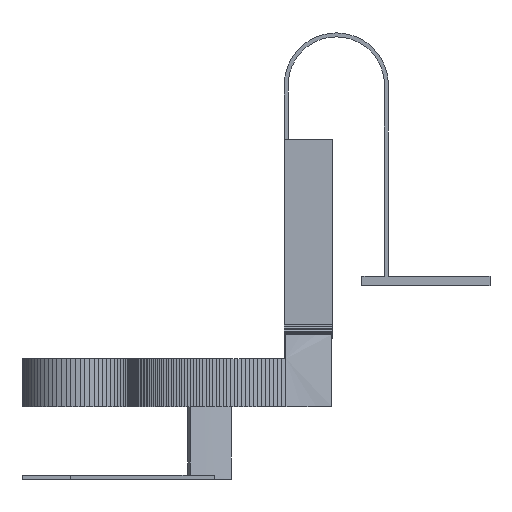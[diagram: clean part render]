
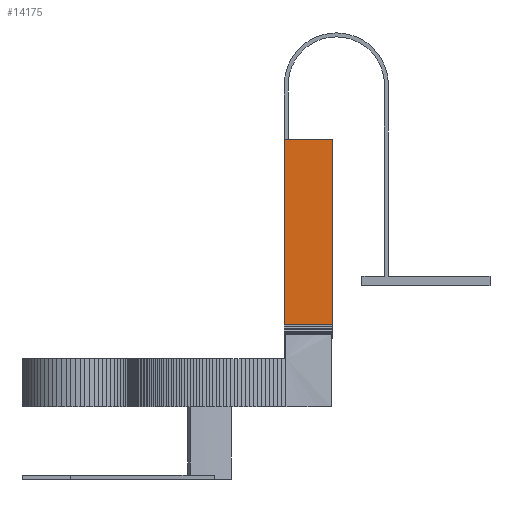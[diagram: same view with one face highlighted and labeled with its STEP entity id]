
A CAD part, left-side view. The second image highlights one B-rep face of the part: STEP entity #14175.
In plain terms, the highlighted planar face has unit normal (-1, 0, 0).
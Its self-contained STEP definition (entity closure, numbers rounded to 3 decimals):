
#12252 = PLANE('',#12253);
#12253 = AXIS2_PLACEMENT_3D('',#12254,#12255,#12256);
#12254 = CARTESIAN_POINT('',(24.5,7.,-41.85));
#12255 = DIRECTION('',(0.,-1.,0.));
#12256 = DIRECTION('',(-1.,0.,0.));
#12836 = VERTEX_POINT('',#12837);
#12837 = CARTESIAN_POINT('',(25.1,7.,-29.4));
#12851 = PLANE('',#12852);
#12852 = AXIS2_PLACEMENT_3D('',#12853,#12854,#12855);
#12853 = CARTESIAN_POINT('',(25.1,4.,-29.4));
#12854 = DIRECTION('',(0.,0.,1.));
#12855 = DIRECTION('',(1.,0.,-0.));
#12863 = EDGE_CURVE('',#12864,#12836,#12866,.T.);
#12864 = VERTEX_POINT('',#12865);
#12865 = CARTESIAN_POINT('',(25.1,7.,-40.995));
#12866 = SURFACE_CURVE('',#12867,(#12871,#12878),.PCURVE_S1.);
#12867 = LINE('',#12868,#12869);
#12868 = CARTESIAN_POINT('',(25.1,7.,-40.995));
#12869 = VECTOR('',#12870,1.);
#12870 = DIRECTION('',(0.,0.,1.));
#12871 = PCURVE('',#12252,#12872);
#12872 = DEFINITIONAL_REPRESENTATION('',(#12873),#12877);
#12873 = LINE('',#12874,#12875);
#12874 = CARTESIAN_POINT('',(-0.6,-0.855));
#12875 = VECTOR('',#12876,1.);
#12876 = DIRECTION('',(0.,-1.));
#12877 = ( GEOMETRIC_REPRESENTATION_CONTEXT(2) 
PARAMETRIC_REPRESENTATION_CONTEXT() REPRESENTATION_CONTEXT('2D SPACE',''
  ) );
#12878 = PCURVE('',#12879,#12884);
#12879 = PLANE('',#12880);
#12880 = AXIS2_PLACEMENT_3D('',#12881,#12882,#12883);
#12881 = CARTESIAN_POINT('',(25.1,4.,-41.05));
#12882 = DIRECTION('',(1.,0.,-0.));
#12883 = DIRECTION('',(0.,0.,1.));
#12884 = DEFINITIONAL_REPRESENTATION('',(#12885),#12889);
#12885 = LINE('',#12886,#12887);
#12886 = CARTESIAN_POINT('',(0.055,-3.));
#12887 = VECTOR('',#12888,1.);
#12888 = DIRECTION('',(1.,0.));
#12889 = ( GEOMETRIC_REPRESENTATION_CONTEXT(2) 
PARAMETRIC_REPRESENTATION_CONTEXT() REPRESENTATION_CONTEXT('2D SPACE',''
  ) );
#12907 = PLANE('',#12908);
#12908 = AXIS2_PLACEMENT_3D('',#12909,#12910,#12911);
#12909 = CARTESIAN_POINT('',(25.091,4.,-41.104));
#12910 = DIRECTION('',(0.997,0.,-0.083));
#12911 = DIRECTION('',(0.083,0.,0.997));
#13186 = PLANE('',#13187);
#13187 = AXIS2_PLACEMENT_3D('',#13188,#13189,#13190);
#13188 = CARTESIAN_POINT('',(16.234,4.,-41.85));
#13189 = DIRECTION('',(0.,1.,0.));
#13190 = DIRECTION('',(1.,0.,0.));
#13480 = VERTEX_POINT('',#13481);
#13481 = CARTESIAN_POINT('',(25.1,4.,-40.995));
#13502 = EDGE_CURVE('',#13503,#13480,#13505,.T.);
#13503 = VERTEX_POINT('',#13504);
#13504 = CARTESIAN_POINT('',(25.1,4.,-29.4));
#13505 = SURFACE_CURVE('',#13506,(#13510,#13517),.PCURVE_S1.);
#13506 = LINE('',#13507,#13508);
#13507 = CARTESIAN_POINT('',(25.1,4.,-29.4));
#13508 = VECTOR('',#13509,1.);
#13509 = DIRECTION('',(0.,0.,-1.));
#13510 = PCURVE('',#13186,#13511);
#13511 = DEFINITIONAL_REPRESENTATION('',(#13512),#13516);
#13512 = LINE('',#13513,#13514);
#13513 = CARTESIAN_POINT('',(8.866,-12.45));
#13514 = VECTOR('',#13515,1.);
#13515 = DIRECTION('',(0.,1.));
#13516 = ( GEOMETRIC_REPRESENTATION_CONTEXT(2) 
PARAMETRIC_REPRESENTATION_CONTEXT() REPRESENTATION_CONTEXT('2D SPACE',''
  ) );
#13517 = PCURVE('',#12879,#13518);
#13518 = DEFINITIONAL_REPRESENTATION('',(#13519),#13523);
#13519 = LINE('',#13520,#13521);
#13520 = CARTESIAN_POINT('',(11.65,0.));
#13521 = VECTOR('',#13522,1.);
#13522 = DIRECTION('',(-1.,0.));
#13523 = ( GEOMETRIC_REPRESENTATION_CONTEXT(2) 
PARAMETRIC_REPRESENTATION_CONTEXT() REPRESENTATION_CONTEXT('2D SPACE',''
  ) );
#14156 = EDGE_CURVE('',#12864,#13480,#14157,.T.);
#14157 = SURFACE_CURVE('',#14158,(#14162,#14168),.PCURVE_S1.);
#14158 = LINE('',#14159,#14160);
#14159 = CARTESIAN_POINT('',(25.1,4.,-40.995));
#14160 = VECTOR('',#14161,1.);
#14161 = DIRECTION('',(0.,-1.,0.));
#14162 = PCURVE('',#12907,#14163);
#14163 = DEFINITIONAL_REPRESENTATION('',(#14164),#14167);
#14164 = B_SPLINE_CURVE_WITH_KNOTS('',1,(#14165,#14166),.UNSPECIFIED.,
  .F.,.F.,(2,2),(-3.,0.),.PIECEWISE_BEZIER_KNOTS.);
#14165 = CARTESIAN_POINT('',(0.11,-3.));
#14166 = CARTESIAN_POINT('',(0.11,0.));
#14167 = ( GEOMETRIC_REPRESENTATION_CONTEXT(2) 
PARAMETRIC_REPRESENTATION_CONTEXT() REPRESENTATION_CONTEXT('2D SPACE',''
  ) );
#14168 = PCURVE('',#12879,#14169);
#14169 = DEFINITIONAL_REPRESENTATION('',(#14170),#14174);
#14170 = LINE('',#14171,#14172);
#14171 = CARTESIAN_POINT('',(0.055,0.));
#14172 = VECTOR('',#14173,1.);
#14173 = DIRECTION('',(0.,1.));
#14174 = ( GEOMETRIC_REPRESENTATION_CONTEXT(2) 
PARAMETRIC_REPRESENTATION_CONTEXT() REPRESENTATION_CONTEXT('2D SPACE',''
  ) );
#14175 = ADVANCED_FACE('',(#14176),#12879,.F.);
#14176 = FACE_BOUND('',#14177,.F.);
#14177 = EDGE_LOOP('',(#14178,#14179,#14180,#14201));
#14178 = ORIENTED_EDGE('',*,*,#14156,.F.);
#14179 = ORIENTED_EDGE('',*,*,#12863,.T.);
#14180 = ORIENTED_EDGE('',*,*,#14181,.F.);
#14181 = EDGE_CURVE('',#13503,#12836,#14182,.T.);
#14182 = SURFACE_CURVE('',#14183,(#14187,#14194),.PCURVE_S1.);
#14183 = LINE('',#14184,#14185);
#14184 = CARTESIAN_POINT('',(25.1,4.,-29.4));
#14185 = VECTOR('',#14186,1.);
#14186 = DIRECTION('',(-0.,1.,0.));
#14187 = PCURVE('',#12879,#14188);
#14188 = DEFINITIONAL_REPRESENTATION('',(#14189),#14193);
#14189 = LINE('',#14190,#14191);
#14190 = CARTESIAN_POINT('',(11.65,0.));
#14191 = VECTOR('',#14192,1.);
#14192 = DIRECTION('',(0.,-1.));
#14193 = ( GEOMETRIC_REPRESENTATION_CONTEXT(2) 
PARAMETRIC_REPRESENTATION_CONTEXT() REPRESENTATION_CONTEXT('2D SPACE',''
  ) );
#14194 = PCURVE('',#12851,#14195);
#14195 = DEFINITIONAL_REPRESENTATION('',(#14196),#14200);
#14196 = LINE('',#14197,#14198);
#14197 = CARTESIAN_POINT('',(0.,0.));
#14198 = VECTOR('',#14199,1.);
#14199 = DIRECTION('',(0.,1.));
#14200 = ( GEOMETRIC_REPRESENTATION_CONTEXT(2) 
PARAMETRIC_REPRESENTATION_CONTEXT() REPRESENTATION_CONTEXT('2D SPACE',''
  ) );
#14201 = ORIENTED_EDGE('',*,*,#13502,.T.);
